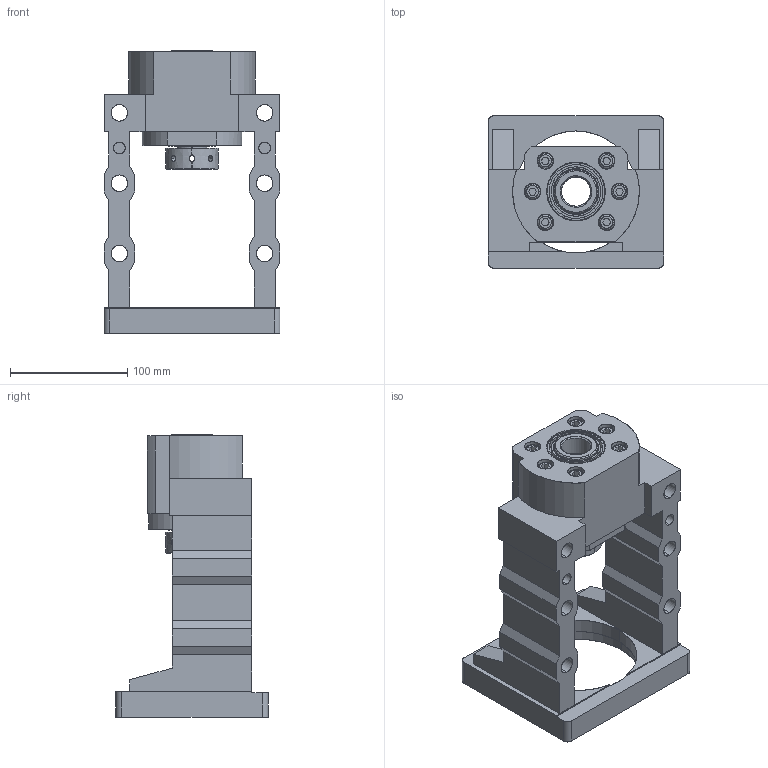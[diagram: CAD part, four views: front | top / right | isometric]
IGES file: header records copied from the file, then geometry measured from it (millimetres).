
Start section: SolidWorks IGES file using analytic representation for surfaces
Bounding box: 150 x 130 x 241 mm (x, y, z)
Surface area: 198104.2 mm2 (no closed solid volume)
Topology: 0 solids, 0 shells, 348 faces, 6008 edges, 6000 vertices
Faces by surface type: revolution 180, bspline 168
